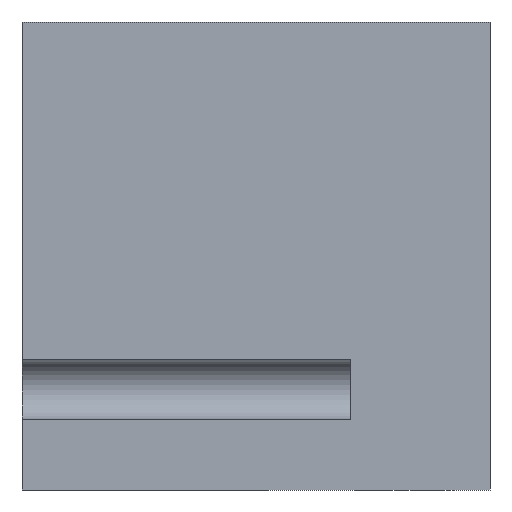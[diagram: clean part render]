
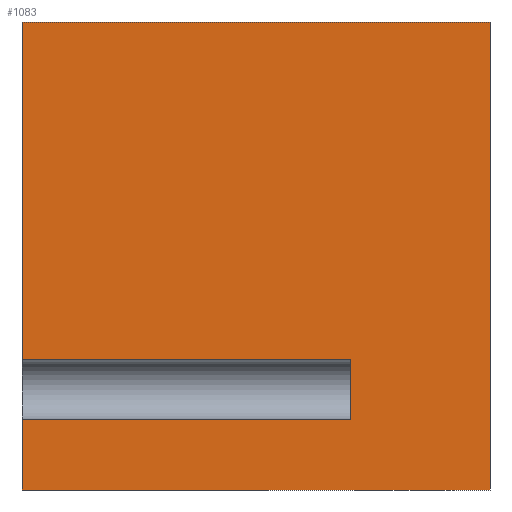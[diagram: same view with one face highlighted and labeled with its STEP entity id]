
A CAD part, left-side view. The second image highlights one B-rep face of the part: STEP entity #1083.
In plain terms, the highlighted planar face has unit normal (-1, 0, 0).
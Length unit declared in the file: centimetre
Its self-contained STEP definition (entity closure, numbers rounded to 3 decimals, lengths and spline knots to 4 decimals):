
#32 = DIRECTION ( 'NONE',  ( 0., -1., 0. ) ) ;
#51 = LINE ( 'NONE', #1364, #657 ) ;
#65 = VERTEX_POINT ( 'NONE', #713 ) ;
#67 = EDGE_CURVE ( 'NONE', #855, #1359, #187, .T. ) ;
#79 = CARTESIAN_POINT ( 'NONE',  ( 0., 1000., 0. ) ) ;
#82 = VECTOR ( 'NONE', #572, 100. ) ;
#83 = DIRECTION ( 'NONE',  ( 0., -1., 0. ) ) ;
#151 = EDGE_LOOP ( 'NONE', ( #889, #400, #614, #579, #734, #207, #695, #515 ) ) ;
#153 = LINE ( 'NONE', #947, #82 ) ;
#157 = VERTEX_POINT ( 'NONE', #238 ) ;
#161 = LINE ( 'NONE', #720, #768 ) ;
#187 = LINE ( 'NONE', #859, #992 ) ;
#206 = DIRECTION ( 'NONE',  ( 0., 0., -1. ) ) ;
#207 = ORIENTED_EDGE ( 'NONE', *, *, #538, .F. ) ;
#209 = VECTOR ( 'NONE', #620, 100. ) ;
#214 = LINE ( 'NONE', #1544, #982 ) ;
#215 = VERTEX_POINT ( 'NONE', #635 ) ;
#221 = FACE_OUTER_BOUND ( 'NONE', #151, .T. ) ;
#238 = CARTESIAN_POINT ( 'NONE',  ( 0., 297.8242, 277.9692 ) ) ;
#260 = DIRECTION ( 'NONE',  ( 1., 0., 0. ) ) ;
#266 = AXIS2_PLACEMENT_3D ( 'NONE', #540, #260, #670 ) ;
#298 = EDGE_CURVE ( 'NONE', #157, #809, #852, .T. ) ;
#300 = CARTESIAN_POINT ( 'NONE',  ( 0., 1000., 1000. ) ) ;
#400 = ORIENTED_EDGE ( 'NONE', *, *, #862, .T. ) ;
#422 = EDGE_CURVE ( 'NONE', #1308, #1359, #214, .T. ) ;
#437 = VERTEX_POINT ( 'NONE', #1579 ) ;
#447 = CARTESIAN_POINT ( 'NONE',  ( 0., 297.8242, 1000. ) ) ;
#515 = ORIENTED_EDGE ( 'NONE', *, *, #298, .F. ) ;
#538 = EDGE_CURVE ( 'NONE', #65, #1308, #161, .T. ) ;
#540 = CARTESIAN_POINT ( 'NONE',  ( 0., 1000., 1000. ) ) ;
#550 = CARTESIAN_POINT ( 'NONE',  ( 0., 0., 1000. ) ) ;
#572 = DIRECTION ( 'NONE',  ( 0., 0., -1. ) ) ;
#579 = ORIENTED_EDGE ( 'NONE', *, *, #67, .T. ) ;
#603 = VECTOR ( 'NONE', #1519, 100. ) ;
#614 = ORIENTED_EDGE ( 'NONE', *, *, #1289, .T. ) ;
#620 = DIRECTION ( 'NONE',  ( 0., 1., 0. ) ) ;
#635 = CARTESIAN_POINT ( 'NONE',  ( 0., 297.8242, 149.5839 ) ) ;
#657 = VECTOR ( 'NONE', #857, 100. ) ;
#670 = DIRECTION ( 'NONE',  ( 0., 0., -1. ) ) ;
#695 = ORIENTED_EDGE ( 'NONE', *, *, #967, .T. ) ;
#713 = CARTESIAN_POINT ( 'NONE',  ( 0., 1000., 1000. ) ) ;
#720 = CARTESIAN_POINT ( 'NONE',  ( 0., 1000., 1000. ) ) ;
#734 = ORIENTED_EDGE ( 'NONE', *, *, #422, .F. ) ;
#768 = VECTOR ( 'NONE', #32, 100. ) ;
#809 = VERTEX_POINT ( 'NONE', #1312 ) ;
#810 = DIRECTION ( 'NONE',  ( 0., 0., -1. ) ) ;
#852 = LINE ( 'NONE', #1382, #209 ) ;
#855 = VERTEX_POINT ( 'NONE', #79 ) ;
#857 = DIRECTION ( 'NONE',  ( 0., 1., 0. ) ) ;
#859 = CARTESIAN_POINT ( 'NONE',  ( 0., 1000., 0. ) ) ;
#862 = EDGE_CURVE ( 'NONE', #215, #437, #51, .T. ) ;
#889 = ORIENTED_EDGE ( 'NONE', *, *, #1330, .T. ) ;
#920 = PLANE ( 'NONE',  #266 ) ;
#947 = CARTESIAN_POINT ( 'NONE',  ( 0., 1000., 1000. ) ) ;
#967 = EDGE_CURVE ( 'NONE', #65, #809, #1644, .T. ) ;
#982 = VECTOR ( 'NONE', #206, 100. ) ;
#992 = VECTOR ( 'NONE', #83, 100. ) ;
#1083 = ADVANCED_FACE ( 'NONE', ( #221 ), #920, .F. ) ;
#1225 = CARTESIAN_POINT ( 'NONE',  ( 0., 0., 0. ) ) ;
#1262 = VECTOR ( 'NONE', #810, 100. ) ;
#1289 = EDGE_CURVE ( 'NONE', #437, #855, #153, .T. ) ;
#1308 = VERTEX_POINT ( 'NONE', #550 ) ;
#1312 = CARTESIAN_POINT ( 'NONE',  ( 0., 1000., 277.9692 ) ) ;
#1330 = EDGE_CURVE ( 'NONE', #157, #215, #1631, .T. ) ;
#1359 = VERTEX_POINT ( 'NONE', #1225 ) ;
#1364 = CARTESIAN_POINT ( 'NONE',  ( 0., 297.8242, 149.5839 ) ) ;
#1382 = CARTESIAN_POINT ( 'NONE',  ( 0., 297.8242, 277.9692 ) ) ;
#1519 = DIRECTION ( 'NONE',  ( 0., 0., -1. ) ) ;
#1544 = CARTESIAN_POINT ( 'NONE',  ( 0., 0., 1000. ) ) ;
#1579 = CARTESIAN_POINT ( 'NONE',  ( 0., 1000., 149.5839 ) ) ;
#1631 = LINE ( 'NONE', #447, #1262 ) ;
#1644 = LINE ( 'NONE', #300, #603 ) ;
